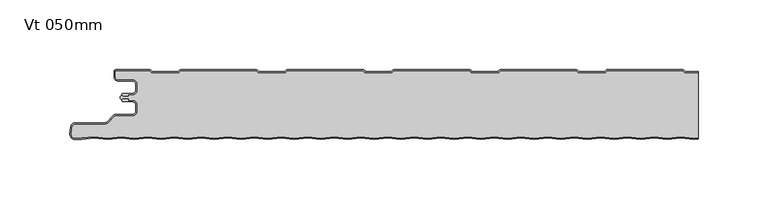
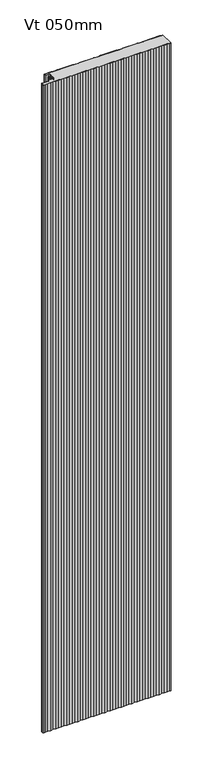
"""IFC4 building model written with IfcOpenShell, lengths in millimetres: plate geometry, KIP-MEX-KSS-1067-R19-CP-Vt-MR_SL : Vt 050mm."""

from ifc_helpers import new_model, si_unit, point, frame, frame_2d, origin, origin_with_axes, place, context, project, spatial, polyline, circle_curve, trimmed, segment, composite_curve, outline, extrude, source, transform, mapped, element, save
from ifc_brep_helpers import plane_surface, cylinder_surface, revolved_surface, advanced_brep


def vt_050mm_2a4f2189(model_context):
    return source(origin(), model_context, "Body", "SolidModel", [
        extrude(outline(composite_curve([segment(polyline([(-205.4683, -21.670875), (-206.4999998, -20.6391751), (-206.4999998, -19.0328392), (-205.4686882, -18.0015275)]), True, "CONTINUOUS"), segment(trimmed(circle_curve(frame_2d((-204.468691, -18.0015216)), 0.9999972), [point((-205.4686882, -18.0015275))], [point((-204.468691, -19.0015188))], True, "CARTESIAN"), True, "CONTINUOUS"), segment(polyline([(-204.468691, -19.0015188), (-200.4684873, -19.0015188), (-200.4684873, -18.0015243), (-197.7762775, -18.0015243)]), True, "CONTINUOUS"), segment(trimmed(circle_curve(frame_2d((-197.7762775, -14.7015286)), 3.2999957), [point((-197.7762775, -18.0015243))], [point((-194.4762818, -14.7015286))], True, "CARTESIAN"), True, "CONTINUOUS"), segment(polyline([(-194.4762818, -14.7015286), (-194.4762818, -10.3015374)]), True, "CONTINUOUS"), segment(trimmed(circle_curve(frame_2d((-197.7762777, -10.3015374)), 3.2999959), [point((-194.4762818, -10.3015374))], [point((-197.7762777, -7.0015415))], True, "CARTESIAN"), True, "CONTINUOUS"), segment(polyline([(-197.7762777, -7.0015415), (-208.1962562, -7.0015415)]), True, "CONTINUOUS"), segment(trimmed(circle_curve(frame_2d((-208.1962562, -5.2315473)), 1.7699942), [point((-208.1962562, -7.0015415))], [point((-209.9662504, -5.2315473))], False, "CARTESIAN"), True, "CONTINUOUS"), segment(polyline([(-209.9662504, -5.2315473), (-209.9662504, -1.0), (-185.4659738, -1.0), (-184.0803312, -2.2002391), (-164.7051649, -2.2002391), (-163.3195319, -1.0000084), (-109.2661165, -1.0000084), (-107.8804836, -2.2002391), (-88.5053173, -2.2002391), (-87.1196843, -1.0000084), (-33.0662689, -1.0000084), (-31.680636, -2.2002391), (-12.3054697, -2.2002391), (-10.9198367, -1.0000084), (43.1335787, -1.0000084), (44.5192116, -2.2002391), (63.8943779, -2.2002391), (65.2800109, -1.0000084), (119.3334263, -1.0000084), (120.7190592, -2.2002391), (140.0942255, -2.2002391), (141.4798585, -1.0000084), (195.5332739, -1.0000084), (196.9189068, -2.2002391), (206.4999998, -2.2002391), (206.4999998, -48.6994464), (203.6548827, -49.015715), (194.1299018, -47.9568999), (184.6049208, -49.015715), (175.0799399, -47.9568999), (165.5549589, -49.015715), (156.029978, -47.9568999), (146.504997, -49.015715), (136.9800161, -47.9568999), (127.4550351, -49.015715), (117.9300542, -47.9568999), (108.4050732, -49.015715), (98.8800923, -47.9568999), (89.3551113, -49.015715), (79.8301304, -47.9568999), (70.3051494, -49.015715), (60.7801685, -47.9568999), (51.2551875, -49.015715), (41.7302066, -47.9568999), (32.2052256, -49.015715), (22.6802447, -47.9568999), (13.1552637, -49.015715), (3.6302828, -47.9568999), (-5.8946982, -49.015715), (-15.4196791, -47.9568999), (-24.9446601, -49.015715), (-34.469641, -47.9568999), (-43.994622, -49.015715), (-53.5196029, -47.9568999), (-63.0445839, -49.015715), (-72.5695648, -47.9568999), (-82.0945458, -49.015715), (-91.6195267, -47.9568999), (-101.1445077, -49.015715), (-110.6694886, -47.9568999), (-120.1944696, -49.015715), (-129.7194505, -47.9568999), (-139.2444315, -49.015715), (-148.7694124, -47.9568999), (-158.2943934, -49.015715), (-167.8193743, -47.9568999), (-177.3443553, -49.015715), (-186.8693362, -47.9568999), (-196.3943172, -49.015715), (-205.9192981, -47.9568999), (-215.4442791, -49.015715), (-224.96926, -47.9568999), (-234.3001738, -48.9941422), (-238.9501935, -48.9941422)]), True, "CONTINUOUS"), segment(trimmed(circle_curve(frame_2d((-238.9521993, -46.4241501)), 2.5699929), [point((-238.9501935, -48.9941422))], [point((-241.5124126, -46.2001604))], False, "CARTESIAN"), True, "CONTINUOUS"), segment(polyline([(-241.5124126, -46.2001604), (-241.0765683, -41.2184377)]), True, "CONTINUOUS"), segment(trimmed(circle_curve(frame_2d((-238.4198391, -41.6998415)), 2.6999926), [point((-241.0765683, -41.2184377))], [point((-238.4198391, -38.9998489))], False, "CARTESIAN"), True, "CONTINUOUS"), segment(polyline([(-238.4198391, -38.9998489), (-217.2773995, -38.9998489)]), True, "CONTINUOUS"), segment(trimmed(circle_curve(frame_2d((-217.2773995, -36.6998515)), 2.2999974), [point((-217.2773995, -38.9998489))], [point((-215.6510558, -38.3261953))], True, "CARTESIAN"), True, "CONTINUOUS"), segment(polyline([(-215.6510558, -38.3261953), (-210.8226383, -33.4977778)]), True, "CONTINUOUS"), segment(trimmed(circle_curve(frame_2d((-209.6205606, -34.6998555)), 1.6999946), [point((-210.8226383, -33.4977778))], [point((-209.6205606, -32.9998609))], False, "CARTESIAN"), True, "CONTINUOUS"), segment(polyline([(-209.6205606, -32.9998609), (-197.8096715, -32.9998609)]), True, "CONTINUOUS"), segment(trimmed(circle_curve(frame_2d((-197.8096715, -29.6498656)), 3.3499953), [point((-197.8096715, -32.9998609))], [point((-194.4596762, -29.6498656))], True, "CARTESIAN"), True, "CONTINUOUS"), segment(polyline([(-194.4596762, -29.6498656), (-194.4596762, -25.2498744)]), True, "CONTINUOUS"), segment(trimmed(circle_curve(frame_2d((-197.8096715, -25.2498744)), 3.3499953), [point((-194.4596762, -25.2498744))], [point((-197.8096715, -21.8998791))], True, "CARTESIAN"), True, "CONTINUOUS"), segment(polyline([(-197.8096715, -21.8998791), (-200.5087826, -21.8998791), (-200.5087826, -20.5014003), (-204.267176, -20.5014003)]), True, "CONTINUOUS"), segment(trimmed(circle_curve(frame_2d((-204.2686906, -21.7013969)), 1.1999976), [point((-204.267176, -20.5014003))], [point((-205.4683, -21.670875))], True, "CARTESIAN"), True, "CONTINUOUS")], self_intersect=False)), origin_with_axes(), (0.0, 0.0, 1.0), 2400.0),
        advanced_brep(
        [(-204.468691, -17.0015159, 2400.0), (-205.4686883, -18.0015191, 2400.0), (-204.468691, -19.0015105, 2400.0), (-200.4684874, -19.0015105, 2400.0), (-200.4684874, -18.0015159, 2400.0), (-197.7762776, -18.0015159, 2400.0), (-194.4762819, -14.7015202, 2400.0), (-194.4762819, -10.301529, 2400.0), (-197.7762774, -7.0015335, 2400.0), (-208.1962563, -7.0015335, 2400.0), (-209.9662505, -5.2315393, 2400.0), (-209.9662505, -0.9999916, 2400.0), (-185.4659738, -0.9999916, 2400.0), (-184.0803312, -2.2002307, 2400.0), (-164.7051649, -2.2002307, 2400.0), (-163.319532, -1.0, 2400.0), (-109.2661166, -1.0, 2400.0), (-107.8804836, -2.2002307, 2400.0), (-88.5053173, -2.2002307, 2400.0), (-87.1196844, -1.0, 2400.0), (-33.066269, -1.0, 2400.0), (-31.680636, -2.2002307, 2400.0), (-12.3054697, -2.2002307, 2400.0), (-10.9198368, -1.0, 2400.0), (43.1335786, -1.0, 2400.0), (44.5192116, -2.2002307, 2400.0), (63.8943779, -2.2002307, 2400.0), (65.2800108, -1.0, 2400.0), (119.3334262, -1.0, 2400.0), (120.7190592, -2.2002307, 2400.0), (140.0942255, -2.2002307, 2400.0), (141.4798584, -1.0, 2400.0), (195.5332738, -1.0, 2400.0), (196.9189068, -2.2002307, 2400.0), (206.4999998, -2.2002307, 2400.0), (206.4999998, -1.2002307, 2400.0), (197.2917872, -1.2002307, 2400.0), (196.3007396, -0.3417885, 2400.0), (195.3841227, 0.0, 2400.0), (141.6290096, 0.0, 2400.0), (140.7123927, -0.3417885, 2400.0), (139.7213451, -1.2002307, 2400.0), (121.0919396, -1.2002307, 2400.0), (120.100892, -0.3417885, 2400.0), (119.1842751, 0.0, 2400.0), (65.429162, 0.0, 2400.0), (64.5125451, -0.3417885, 2400.0), (63.5214975, -1.2002307, 2400.0), (44.892092, -1.2002307, 2400.0), (43.9010444, -0.3417885, 2400.0), (42.9844275, 0.0, 2400.0), (-10.7706856, 0.0, 2400.0), (-11.6873025, -0.3417885, 2400.0), (-12.6783501, -1.2002307, 2400.0), (-31.3077556, -1.2002307, 2400.0), (-32.2988032, -0.3417885, 2400.0), (-33.2154201, 0.0, 2400.0), (-86.9705332, 0.0, 2400.0), (-87.8871501, -0.3417885, 2400.0), (-88.8781977, -1.2002307, 2400.0), (-107.5076032, -1.2002307, 2400.0), (-108.4986508, -0.3417885, 2400.0), (-109.4152677, 0.0, 2400.0), (-163.1703808, 0.0, 2400.0), (-164.0869977, -0.3417885, 2400.0), (-165.0780453, -1.2002307, 2400.0), (-183.7074508, -1.2002307, 2400.0), (-184.6984984, -0.3417885, 2400.0), (-185.6152067, 0.0, 2400.0), (-209.5662543, 8.4e-06, 2400.0), (-210.9662505, -1.3999878, 2400.0), (-210.9662505, -5.2315393, 2400.0), (-208.1962563, -8.0015335, 2400.0), (-197.7762774, -8.0015335, 2400.0), (-195.4762819, -10.301529, 2400.0), (-195.4762819, -14.7015202, 2400.0), (-197.7762776, -17.0015159, 2400.0), (-204.468691, -17.0015159, 0.0), (-197.7762776, -17.0015159, 0.0), (-195.4762819, -14.7015202, 0.0), (-195.4762819, -10.301529, 0.0), (-197.7762774, -8.0015335, 0.0), (-208.1962563, -8.0015335, 0.0), (-210.9662505, -5.2315393, 0.0), (-210.9662505, -1.3999878, 0.0), (-209.5662543, 8.4e-06, 0.0), (-185.6151153, 8.4e-06, 0.0), (-184.6984984, -0.3417885, 0.0), (-183.7074508, -1.2002307, 0.0), (-165.0780453, -1.2002307, 0.0), (-164.0869977, -0.3417885, 0.0), (-163.1703808, 0.0, 0.0), (-109.4152677, 0.0, 0.0), (-108.4986508, -0.3417885, 0.0), (-107.5076032, -1.2002307, 0.0), (-88.8781977, -1.2002307, 0.0), (-87.8871501, -0.3417885, 0.0), (-86.9705332, 0.0, 0.0), (-33.2154201, 0.0, 0.0), (-32.2988032, -0.3417885, 0.0), (-31.3077556, -1.2002307, 0.0), (-12.6783501, -1.2002307, 0.0), (-11.6873025, -0.3417885, 0.0), (-10.7706856, 0.0, 0.0), (42.9844275, 0.0, 0.0), (43.9010444, -0.3417885, 0.0), (44.892092, -1.2002307, 0.0), (63.5214975, -1.2002307, 0.0), (64.5125451, -0.3417885, 0.0), (65.429162, 0.0, 0.0), (119.1842751, 0.0, 0.0), (120.100892, -0.3417885, 0.0), (121.0919396, -1.2002307, 0.0), (139.7213451, -1.2002307, 0.0), (140.7123927, -0.3417885, 0.0), (141.6290096, 0.0, 0.0), (195.3841227, 0.0, 0.0), (196.3007396, -0.3417885, 0.0), (197.2917872, -1.2002307, 0.0), (206.4999998, -1.2002307, 0.0), (206.4999998, -2.2002307, 0.0), (196.9189068, -2.2002307, 0.0), (195.5332738, -1.0, 0.0), (141.4798584, -1.0, 0.0), (140.0942255, -2.2002307, 0.0), (120.7190592, -2.2002307, 0.0), (119.3334262, -1.0, 0.0), (65.2800108, -1.0, 0.0), (63.8943779, -2.2002307, 0.0), (44.5192116, -2.2002307, 0.0), (43.1335786, -1.0, 0.0), (-10.9198368, -1.0, 0.0), (-12.3054697, -2.2002307, 0.0), (-31.680636, -2.2002307, 0.0), (-33.066269, -1.0, 0.0), (-87.1196844, -1.0, 0.0), (-88.5053173, -2.2002307, 0.0), (-107.8804836, -2.2002307, 0.0), (-109.2661166, -1.0, 0.0), (-163.319532, -1.0, 0.0), (-164.7051649, -2.2002307, 0.0), (-184.0803312, -2.2002307, 0.0), (-185.4659738, -0.9999916, 0.0), (-209.9662505, -0.9999916, 0.0), (-209.9662505, -5.2315393, 0.0), (-208.1962563, -7.0015335, 0.0), (-197.7762774, -7.0015335, 0.0), (-194.4762819, -10.301529, 0.0), (-194.4762819, -14.7015202, 0.0), (-197.7762776, -18.0015159, 0.0), (-200.4684874, -18.0015159, 0.0), (-200.4684874, -19.0015105, 0.0), (-204.468691, -19.0015105, 0.0), (-205.4686882, -18.0015192, 0.0)],
        [
            (0, 1, circle_curve(frame((-204.468691, -18.0015132, 2400.0), z_axis=(0.0, 0.0, 1.0), x_axis=(1.0, 0.0, 0.0)), 0.9999973)),
            (1, 2, circle_curve(frame((-204.468691, -18.0015133, 2400.0), z_axis=(0.0, 0.0, 1.0), x_axis=(1.0, 0.0, 0.0)), 0.9999972)),
            (2, 3),
            (3, 4),
            (4, 5),
            (5, 6, circle_curve(frame((-197.7762776, -14.7015202, 2400.0), z_axis=(0.0, 0.0, 1.0), x_axis=(1.0, 0.0, 0.0)), 3.2999957)),
            (6, 7),
            (7, 8, circle_curve(frame((-197.7762774, -10.301529, 2400.0), z_axis=(0.0, 0.0, 1.0), x_axis=(1.0, 0.0, 0.0)), 3.2999955)),
            (8, 9),
            (9, 10, circle_curve(frame((-208.1962563, -5.2315393, 2400.0), z_axis=(0.0, 0.0, -1.0), x_axis=(1.0, 0.0, 0.0)), 1.7699942)),
            (10, 11),
            (11, 12),
            (12, 13),
            (13, 14),
            (14, 15),
            (15, 16),
            (16, 17),
            (17, 18),
            (18, 19),
            (19, 20),
            (20, 21),
            (21, 22),
            (22, 23),
            (23, 24),
            (24, 25),
            (25, 26),
            (26, 27),
            (27, 28),
            (28, 29),
            (29, 30),
            (30, 31),
            (31, 32),
            (32, 33),
            (33, 34),
            (34, 35),
            (35, 36),
            (36, 37),
            (37, 38, circle_curve(frame((195.3841227, -1.3999972, 2400.0), z_axis=(0.0, 0.0, 1.0), x_axis=(1.0, 0.0, 0.0)), 1.3999972)),
            (38, 39),
            (39, 40, circle_curve(frame((141.6290096, -1.3999972, 2400.0), z_axis=(0.0, 0.0, 1.0), x_axis=(1.0, 0.0, 0.0)), 1.3999972)),
            (40, 41),
            (41, 42),
            (42, 43),
            (43, 44, circle_curve(frame((119.1842751, -1.3999972, 2400.0), z_axis=(0.0, 0.0, 1.0), x_axis=(1.0, 0.0, 0.0)), 1.3999972)),
            (44, 45),
            (45, 46, circle_curve(frame((65.429162, -1.3999972, 2400.0), z_axis=(0.0, 0.0, 1.0), x_axis=(1.0, 0.0, 0.0)), 1.3999972)),
            (46, 47),
            (47, 48),
            (48, 49),
            (49, 50, circle_curve(frame((42.9844275, -1.3999972, 2400.0), z_axis=(0.0, 0.0, 1.0), x_axis=(1.0, 0.0, 0.0)), 1.3999972)),
            (50, 51),
            (51, 52, circle_curve(frame((-10.7706856, -1.3999972, 2400.0), z_axis=(0.0, 0.0, 1.0), x_axis=(1.0, 0.0, 0.0)), 1.3999972)),
            (52, 53),
            (53, 54),
            (54, 55),
            (55, 56, circle_curve(frame((-33.2154201, -1.3999972, 2400.0), z_axis=(0.0, 0.0, 1.0), x_axis=(1.0, 0.0, 0.0)), 1.3999972)),
            (56, 57),
            (57, 58, circle_curve(frame((-86.9705332, -1.3999972, 2400.0), z_axis=(0.0, 0.0, 1.0), x_axis=(1.0, 0.0, 0.0)), 1.3999972)),
            (58, 59),
            (59, 60),
            (60, 61),
            (61, 62, circle_curve(frame((-109.4152677, -1.3999972, 2400.0), z_axis=(0.0, 0.0, 1.0), x_axis=(1.0, 0.0, 0.0)), 1.3999972)),
            (62, 63),
            (63, 64, circle_curve(frame((-163.1703808, -1.3999972, 2400.0), z_axis=(0.0, 0.0, 1.0), x_axis=(1.0, 0.0, 0.0)), 1.3999972)),
            (64, 65),
            (65, 66),
            (66, 67),
            (67, 68, circle_curve(frame((-185.6151153, -1.3999972, 2400.0), z_axis=(0.0, 0.0, 1.0), x_axis=(1.0, 0.0, 0.0)), 1.3999972)),
            (68, 69),
            (69, 70, circle_curve(frame((-209.5662543, -1.3999878, 2400.0), z_axis=(0.0, 0.0, 1.0), x_axis=(1.0, 0.0, 0.0)), 1.3999962)),
            (70, 71),
            (71, 72, circle_curve(frame((-208.1962563, -5.2315393, 2400.0), z_axis=(0.0, 0.0, 1.0), x_axis=(1.0, 0.0, 0.0)), 2.7699942)),
            (72, 73),
            (73, 74, circle_curve(frame((-197.7762774, -10.301529, 2400.0), z_axis=(0.0, 0.0, -1.0), x_axis=(1.0, 0.0, 0.0)), 2.2999955)),
            (74, 75),
            (75, 76, circle_curve(frame((-197.7762776, -14.7015202, 2400.0), z_axis=(0.0, 0.0, -1.0), x_axis=(1.0, 0.0, 0.0)), 2.2999957)),
            (76, 0),
            (77, 78),
            (78, 79, circle_curve(frame((-197.7762776, -14.7015202, 0.0), z_axis=(0.0, 0.0, 1.0), x_axis=(1.0, 0.0, 0.0)), 2.2999957)),
            (79, 80),
            (80, 81, circle_curve(frame((-197.7762774, -10.301529, 0.0), z_axis=(0.0, 0.0, 1.0), x_axis=(1.0, 0.0, 0.0)), 2.2999955)),
            (81, 82),
            (82, 83, circle_curve(frame((-208.1962563, -5.2315393, 0.0), z_axis=(0.0, 0.0, -1.0), x_axis=(1.0, 0.0, 0.0)), 2.7699942)),
            (83, 84),
            (84, 85, circle_curve(frame((-209.5662543, -1.3999878, 0.0), z_axis=(0.0, 0.0, -1.0), x_axis=(1.0, 0.0, 0.0)), 1.3999962)),
            (85, 86),
            (86, 87, circle_curve(frame((-185.6151153, -1.3999972, 0.0), z_axis=(0.0, 0.0, -1.0), x_axis=(1.0, 0.0, 0.0)), 1.3999972)),
            (87, 88),
            (88, 89),
            (89, 90),
            (90, 91, circle_curve(frame((-163.1703808, -1.3999972, 0.0), z_axis=(0.0, 0.0, -1.0), x_axis=(1.0, 0.0, 0.0)), 1.3999972)),
            (91, 92),
            (92, 93, circle_curve(frame((-109.4152677, -1.3999972, 0.0), z_axis=(0.0, 0.0, -1.0), x_axis=(1.0, 0.0, 0.0)), 1.3999972)),
            (93, 94),
            (94, 95),
            (95, 96),
            (96, 97, circle_curve(frame((-86.9705332, -1.3999972, 0.0), z_axis=(0.0, 0.0, -1.0), x_axis=(1.0, 0.0, 0.0)), 1.3999972)),
            (97, 98),
            (98, 99, circle_curve(frame((-33.2154201, -1.3999972, 0.0), z_axis=(0.0, 0.0, -1.0), x_axis=(1.0, 0.0, 0.0)), 1.3999972)),
            (99, 100),
            (100, 101),
            (101, 102),
            (102, 103, circle_curve(frame((-10.7706856, -1.3999972, 0.0), z_axis=(0.0, 0.0, -1.0), x_axis=(1.0, 0.0, 0.0)), 1.3999972)),
            (103, 104),
            (104, 105, circle_curve(frame((42.9844275, -1.3999972, 0.0), z_axis=(0.0, 0.0, -1.0), x_axis=(1.0, 0.0, 0.0)), 1.3999972)),
            (105, 106),
            (106, 107),
            (107, 108),
            (108, 109, circle_curve(frame((65.429162, -1.3999972, 0.0), z_axis=(0.0, 0.0, -1.0), x_axis=(1.0, 0.0, 0.0)), 1.3999972)),
            (109, 110),
            (110, 111, circle_curve(frame((119.1842751, -1.3999972, 0.0), z_axis=(0.0, 0.0, -1.0), x_axis=(1.0, 0.0, 0.0)), 1.3999972)),
            (111, 112),
            (112, 113),
            (113, 114),
            (114, 115, circle_curve(frame((141.6290096, -1.3999972, 0.0), z_axis=(0.0, 0.0, -1.0), x_axis=(1.0, 0.0, 0.0)), 1.3999972)),
            (115, 116),
            (116, 117, circle_curve(frame((195.3841227, -1.3999972, 0.0), z_axis=(0.0, 0.0, -1.0), x_axis=(1.0, 0.0, 0.0)), 1.3999972)),
            (117, 118),
            (118, 119),
            (119, 120),
            (120, 121),
            (121, 122),
            (122, 123),
            (123, 124),
            (124, 125),
            (125, 126),
            (126, 127),
            (127, 128),
            (128, 129),
            (129, 130),
            (130, 131),
            (131, 132),
            (132, 133),
            (133, 134),
            (134, 135),
            (135, 136),
            (136, 137),
            (137, 138),
            (138, 139),
            (139, 140),
            (140, 141),
            (141, 142),
            (142, 143),
            (143, 144),
            (144, 145, circle_curve(frame((-208.1962563, -5.2315393, 0.0), z_axis=(0.0, 0.0, 1.0), x_axis=(1.0, 0.0, 0.0)), 1.7699942)),
            (145, 146),
            (146, 147, circle_curve(frame((-197.7762774, -10.301529, 0.0), z_axis=(0.0, 0.0, -1.0), x_axis=(1.0, 0.0, 0.0)), 3.2999955)),
            (147, 148),
            (148, 149, circle_curve(frame((-197.7762776, -14.7015202, 0.0), z_axis=(0.0, 0.0, -1.0), x_axis=(1.0, 0.0, 0.0)), 3.2999957)),
            (149, 150),
            (150, 151),
            (151, 152),
            (152, 153, circle_curve(frame((-204.468691, -18.0015133, 0.0), z_axis=(0.0, 0.0, -1.0), x_axis=(1.0, 0.0, 0.0)), 0.9999972)),
            (153, 77, circle_curve(frame((-204.468691, -18.0015132, 0.0), z_axis=(0.0, 0.0, -1.0), x_axis=(1.0, 0.0, 0.0)), 0.9999973)),
            (76, 78),
            (77, 0),
            (75, 79),
            (74, 80),
            (73, 81),
            (72, 82),
            (71, 83),
            (70, 84),
            (69, 85),
            (68, 86),
            (67, 87),
            (66, 88),
            (65, 89),
            (64, 90),
            (63, 91),
            (62, 92),
            (61, 93),
            (60, 94),
            (59, 95),
            (58, 96),
            (57, 97),
            (56, 98),
            (55, 99),
            (54, 100),
            (53, 101),
            (52, 102),
            (51, 103),
            (50, 104),
            (49, 105),
            (48, 106),
            (47, 107),
            (46, 108),
            (45, 109),
            (44, 110),
            (43, 111),
            (42, 112),
            (41, 113),
            (40, 114),
            (39, 115),
            (38, 116),
            (37, 117),
            (36, 118),
            (35, 119),
            (120, 34),
            (33, 121),
            (32, 122),
            (31, 123),
            (30, 124),
            (29, 125),
            (28, 126),
            (27, 127),
            (26, 128),
            (25, 129),
            (24, 130),
            (23, 131),
            (22, 132),
            (21, 133),
            (20, 134),
            (19, 135),
            (18, 136),
            (17, 137),
            (16, 138),
            (15, 139),
            (14, 140),
            (13, 141),
            (12, 142),
            (11, 143),
            (10, 144),
            (9, 145),
            (8, 146),
            (7, 147),
            (6, 148),
            (5, 149),
            (4, 150),
            (3, 151),
            (2, 152),
            (1, 153),
        ],
        [
            plane_surface(frame((326.9000002, 0.0, 2400.0), z_axis=(0.0, 0.0, 1.0), x_axis=(0.0, 1.0, 0.0))),
            plane_surface(frame((326.9000002, 0.0, 0.0), z_axis=(0.0, 0.0, -1.0), x_axis=(0.0, 1.0, 0.0))),
            plane_surface(frame((-204.468691, -17.0015159, 2400.0), z_axis=(0.0, 1.0, 0.0), x_axis=(0.0, 0.0, -1.0))),
            revolved_surface(polyline([(-195.47628189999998, -14.7015202, 0.0), (-195.47628189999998, -14.7015202, 2400.0)]), (-197.7762776, -14.7015202, 2400.0), (0.0, 0.0, -1.0)),
            plane_surface(frame((-195.4762819, -14.7015202, 2400.0), z_axis=(-1.0, 0.0, 0.0), x_axis=(0.0, 0.0, -1.0))),
            revolved_surface(polyline([(-195.4762819, -10.301529, 0.0), (-195.4762819, -10.301529, 2400.0)]), (-197.7762774, -10.301529, 2400.0), (0.0, 0.0, -1.0)),
            plane_surface(frame((-197.7762774, -8.0015335, 2400.0), z_axis=(0.0, -1.0, 0.0), x_axis=(0.0, 0.0, -1.0))),
            cylinder_surface(frame((-208.1962563, -5.2315393, 2400.0), z_axis=(0.0, 0.0, 1.0), x_axis=(1.0, 0.0, 0.0)), 2.7699942),
            plane_surface(frame((-210.9662505, -5.2315393, 2400.0), z_axis=(-1.0, 0.0, 0.0), x_axis=(0.0, 0.0, -1.0))),
            cylinder_surface(frame((-209.5662543, -1.3999878, 2400.0), z_axis=(0.0, 0.0, 1.0), x_axis=(1.0, 0.0, 0.0)), 1.3999962),
            plane_surface(frame((-209.5662543, 8.4e-06, 2400.0), z_axis=(0.0, 1.0, 0.0), x_axis=(0.0, 0.0, -1.0))),
            cylinder_surface(frame((-185.6151153, -1.3999972, 2400.0), z_axis=(0.0, 0.0, 1.0), x_axis=(1.0, 0.0, 0.0)), 1.3999972),
            plane_surface(frame((-184.6984984, -0.3417885, 2400.0), z_axis=(0.6547276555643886, 0.755864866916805, 0.0), x_axis=(0.0, 0.0, -1.0))),
            plane_surface(frame((-174.3927481, -1.2002307, 2400.0), z_axis=(0.0, 1.0, 0.0), x_axis=(0.0, 0.0, -1.0))),
            plane_surface(frame((-165.0780453, -1.2002307, 2400.0), z_axis=(-0.6547276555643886, 0.755864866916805, 0.0), x_axis=(0.0, 0.0, -1.0))),
            cylinder_surface(frame((-163.1703808, -1.3999972, 2400.0), z_axis=(0.0, 0.0, 1.0), x_axis=(1.0, 0.0, 0.0)), 1.3999972),
            plane_surface(frame((-163.1703808, 0.0, 2400.0), z_axis=(0.0, 1.0, 0.0), x_axis=(0.0, 0.0, -1.0))),
            cylinder_surface(frame((-109.4152677, -1.3999972, 2400.0), z_axis=(0.0, 0.0, 1.0), x_axis=(1.0, 0.0, 0.0)), 1.3999972),
            plane_surface(frame((-108.4986508, -0.3417885, 2400.0), z_axis=(0.6547276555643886, 0.755864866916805, 0.0), x_axis=(0.0, 0.0, -1.0))),
            plane_surface(frame((-98.1929005, -1.2002307, 2400.0), z_axis=(0.0, 1.0, 0.0), x_axis=(0.0, 0.0, -1.0))),
            plane_surface(frame((-88.8781977, -1.2002307, 2400.0), z_axis=(-0.6547276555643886, 0.755864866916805, 0.0), x_axis=(0.0, 0.0, -1.0))),
            cylinder_surface(frame((-86.9705332, -1.3999972, 2400.0), z_axis=(0.0, 0.0, 1.0), x_axis=(1.0, 0.0, 0.0)), 1.3999972),
            plane_surface(frame((-86.9705332, 0.0, 2400.0), z_axis=(0.0, 1.0, 0.0), x_axis=(0.0, 0.0, -1.0))),
            cylinder_surface(frame((-33.2154201, -1.3999972, 2400.0), z_axis=(0.0, 0.0, 1.0), x_axis=(1.0, 0.0, 0.0)), 1.3999972),
            plane_surface(frame((-32.2988032, -0.3417885, 2400.0), z_axis=(0.6547276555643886, 0.755864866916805, 0.0), x_axis=(0.0, 0.0, -1.0))),
            plane_surface(frame((-21.9930529, -1.2002307, 2400.0), z_axis=(0.0, 1.0, 0.0), x_axis=(0.0, 0.0, -1.0))),
            plane_surface(frame((-12.6783501, -1.2002307, 2400.0), z_axis=(-0.6547276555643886, 0.755864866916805, 0.0), x_axis=(0.0, 0.0, -1.0))),
            cylinder_surface(frame((-10.7706856, -1.3999972, 2400.0), z_axis=(0.0, 0.0, 1.0), x_axis=(1.0, 0.0, 0.0)), 1.3999972),
            plane_surface(frame((-10.7706856, 0.0, 2400.0), z_axis=(0.0, 1.0, 0.0), x_axis=(0.0, 0.0, -1.0))),
            cylinder_surface(frame((42.9844275, -1.3999972, 2400.0), z_axis=(0.0, 0.0, 1.0), x_axis=(1.0, 0.0, 0.0)), 1.3999972),
            plane_surface(frame((43.9010444, -0.3417885, 2400.0), z_axis=(0.6547276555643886, 0.755864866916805, 0.0), x_axis=(0.0, 0.0, -1.0))),
            plane_surface(frame((54.2067947, -1.2002307, 2400.0), z_axis=(0.0, 1.0, 0.0), x_axis=(0.0, 0.0, -1.0))),
            plane_surface(frame((63.5214975, -1.2002307, 2400.0), z_axis=(-0.6547276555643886, 0.755864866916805, 0.0), x_axis=(0.0, 0.0, -1.0))),
            cylinder_surface(frame((65.429162, -1.3999972, 2400.0), z_axis=(0.0, 0.0, 1.0), x_axis=(1.0, 0.0, 0.0)), 1.3999972),
            plane_surface(frame((65.429162, 0.0, 2400.0), z_axis=(0.0, 1.0, 0.0), x_axis=(0.0, 0.0, -1.0))),
            cylinder_surface(frame((119.1842751, -1.3999972, 2400.0), z_axis=(0.0, 0.0, 1.0), x_axis=(1.0, 0.0, 0.0)), 1.3999972),
            plane_surface(frame((120.100892, -0.3417885, 2400.0), z_axis=(0.6547276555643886, 0.755864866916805, 0.0), x_axis=(0.0, 0.0, -1.0))),
            plane_surface(frame((130.4066423, -1.2002307, 2400.0), z_axis=(0.0, 1.0, 0.0), x_axis=(0.0, 0.0, -1.0))),
            plane_surface(frame((139.7213451, -1.2002307, 2400.0), z_axis=(-0.6547276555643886, 0.755864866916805, 0.0), x_axis=(0.0, 0.0, -1.0))),
            cylinder_surface(frame((141.6290096, -1.3999972, 2400.0), z_axis=(0.0, 0.0, 1.0), x_axis=(1.0, 0.0, 0.0)), 1.3999972),
            plane_surface(frame((141.6290096, 0.0, 2400.0), z_axis=(0.0, 1.0, 0.0), x_axis=(0.0, 0.0, -1.0))),
            cylinder_surface(frame((195.3841227, -1.3999972, 2400.0), z_axis=(0.0, 0.0, 1.0), x_axis=(1.0, 0.0, 0.0)), 1.3999972),
            plane_surface(frame((196.3007396, -0.3417885, 2400.0), z_axis=(0.6547276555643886, 0.755864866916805, 0.0), x_axis=(0.0, 0.0, -1.0))),
            plane_surface(frame((206.6064899, -1.2002307, 2400.0), z_axis=(0.0, 1.0, 0.0), x_axis=(0.0, 0.0, -1.0))),
            plane_surface(frame((216.2940731, -2.2002307, 2400.0), z_axis=(0.0, -1.0, 0.0), x_axis=(0.0, 0.0, -1.0))),
            plane_surface(frame((196.9189068, -2.2002307, 2400.0), z_axis=(-0.6547276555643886, -0.755864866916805, 0.0), x_axis=(0.0, 0.0, -1.0))),
            plane_surface(frame((195.5332738, -1.0, 2400.0), z_axis=(0.0, -1.0, 0.0), x_axis=(0.0, 0.0, -1.0))),
            plane_surface(frame((141.4798584, -1.0, 2400.0), z_axis=(0.6547276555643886, -0.755864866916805, 0.0), x_axis=(0.0, 0.0, -1.0))),
            plane_surface(frame((140.0942255, -2.2002307, 2400.0), z_axis=(0.0, -1.0, 0.0), x_axis=(0.0, 0.0, -1.0))),
            plane_surface(frame((120.7190592, -2.2002307, 2400.0), z_axis=(-0.6547276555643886, -0.755864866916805, 0.0), x_axis=(0.0, 0.0, -1.0))),
            plane_surface(frame((119.3334262, -1.0, 2400.0), z_axis=(0.0, -1.0, 0.0), x_axis=(0.0, 0.0, -1.0))),
            plane_surface(frame((65.2800108, -1.0, 2400.0), z_axis=(0.6547276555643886, -0.755864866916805, 0.0), x_axis=(0.0, 0.0, -1.0))),
            plane_surface(frame((63.8943779, -2.2002307, 2400.0), z_axis=(0.0, -1.0, 0.0), x_axis=(0.0, 0.0, -1.0))),
            plane_surface(frame((44.5192116, -2.2002307, 2400.0), z_axis=(-0.6547276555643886, -0.755864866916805, 0.0), x_axis=(0.0, 0.0, -1.0))),
            plane_surface(frame((43.1335786, -1.0, 2400.0), z_axis=(0.0, -1.0, 0.0), x_axis=(0.0, 0.0, -1.0))),
            plane_surface(frame((-10.9198368, -1.0, 2400.0), z_axis=(0.6547276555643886, -0.755864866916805, 0.0), x_axis=(0.0, 0.0, -1.0))),
            plane_surface(frame((-12.3054697, -2.2002307, 2400.0), z_axis=(0.0, -1.0, 0.0), x_axis=(0.0, 0.0, -1.0))),
            plane_surface(frame((-31.680636, -2.2002307, 2400.0), z_axis=(-0.6547276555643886, -0.755864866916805, 0.0), x_axis=(0.0, 0.0, -1.0))),
            plane_surface(frame((-33.066269, -1.0, 2400.0), z_axis=(0.0, -1.0, 0.0), x_axis=(0.0, 0.0, -1.0))),
            plane_surface(frame((-87.1196844, -1.0, 2400.0), z_axis=(0.6547276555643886, -0.755864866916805, 0.0), x_axis=(0.0, 0.0, -1.0))),
            plane_surface(frame((-88.5053173, -2.2002307, 2400.0), z_axis=(0.0, -1.0, 0.0), x_axis=(0.0, 0.0, -1.0))),
            plane_surface(frame((-107.8804836, -2.2002307, 2400.0), z_axis=(-0.6547276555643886, -0.755864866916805, 0.0), x_axis=(0.0, 0.0, -1.0))),
            plane_surface(frame((-109.2661166, -1.0, 2400.0), z_axis=(0.0, -1.0, 0.0), x_axis=(0.0, 0.0, -1.0))),
            plane_surface(frame((-163.319532, -1.0, 2400.0), z_axis=(0.6547276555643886, -0.755864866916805, 0.0), x_axis=(0.0, 0.0, -1.0))),
            plane_surface(frame((-164.7051649, -2.2002307, 2400.0), z_axis=(0.0, -1.0, 0.0), x_axis=(0.0, 0.0, -1.0))),
            plane_surface(frame((-184.0803312, -2.2002307, 2400.0), z_axis=(-0.6547276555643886, -0.755864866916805, 0.0), x_axis=(0.0, 0.0, -1.0))),
            plane_surface(frame((-185.4659738, -0.9999916, 2400.0), z_axis=(0.0, -1.0, 0.0), x_axis=(0.0, 0.0, -1.0))),
            plane_surface(frame((-209.9662505, -0.9999916, 2400.0), z_axis=(1.0, 0.0, 0.0), x_axis=(0.0, 0.0, -1.0))),
            revolved_surface(polyline([(-206.42626209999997, -5.2315393, 0.0), (-206.42626209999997, -5.2315393, 2400.0)]), (-208.1962563, -5.2315393, 2400.0), (0.0, 0.0, -1.0)),
            plane_surface(frame((-208.1962563, -7.0015335, 2400.0), z_axis=(0.0, 1.0, 0.0), x_axis=(0.0, 0.0, -1.0))),
            cylinder_surface(frame((-197.7762774, -10.301529, 2400.0), z_axis=(0.0, 0.0, 1.0), x_axis=(1.0, 0.0, 0.0)), 3.2999955),
            plane_surface(frame((-194.4762819, -10.301529, 2400.0), z_axis=(1.0, 0.0, 0.0), x_axis=(0.0, 0.0, -1.0))),
            cylinder_surface(frame((-197.7762776, -14.7015202, 2400.0), z_axis=(0.0, 0.0, 1.0), x_axis=(1.0, 0.0, 0.0)), 3.2999957),
            plane_surface(frame((-197.7762776, -18.0015159, 2400.0), z_axis=(0.0, -1.0, 0.0), x_axis=(0.0, 0.0, -1.0))),
            plane_surface(frame((-200.4684874, -18.0015159, 2400.0), z_axis=(1.0, 0.0, 0.0), x_axis=(0.0, 0.0, -1.0))),
            plane_surface(frame((-200.4684874, -19.0015105, 2400.0), z_axis=(0.0, -1.0, 0.0), x_axis=(0.0, 0.0, -1.0))),
            cylinder_surface(frame((-204.468691, -18.0015133, 2400.0), z_axis=(0.0, 0.0, 1.0), x_axis=(1.0, 0.0, 0.0)), 0.9999972),
            cylinder_surface(frame((-204.468691, -18.0015132, 2400.0), z_axis=(0.0, 0.0, 1.0), x_axis=(1.0, 0.0, 0.0)), 0.9999973),
            plane_surface(frame((206.4999998, -60.0, 2400.0), z_axis=(1.0, 0.0, 0.0), x_axis=(0.0, 0.0, -1.0))),
        ],
        [
            (0, [[1, 2, 3, 4, 5, 6, 7, 8, 9, 10, 11, 12, 13, 14, 15, 16, 17, 18, 19, 20, 21, 22, 23, 24, 25, 26, 27, 28, 29, 30, 31, 32, 33, 34, 35, 36, 37, 38, 39, 40, 41, 42, 43, 44, 45, 46, 47, 48, 49, 50, 51, 52, 53, 54, 55, 56, 57, 58, 59, 60, 61, 62, 63, 64, 65, 66, 67, 68, 69, 70, 71, 72, 73, 74, 75, 76, 77]]),
            (1, [[78, 79, 80, 81, 82, 83, 84, 85, 86, 87, 88, 89, 90, 91, 92, 93, 94, 95, 96, 97, 98, 99, 100, 101, 102, 103, 104, 105, 106, 107, 108, 109, 110, 111, 112, 113, 114, 115, 116, 117, 118, 119, 120, 121, 122, 123, 124, 125, 126, 127, 128, 129, 130, 131, 132, 133, 134, 135, 136, 137, 138, 139, 140, 141, 142, 143, 144, 145, 146, 147, 148, 149, 150, 151, 152, 153, 154]]),
            (2, [[155, -78, 156, -77]]),
            (3, [[157, -79, -155, -76]]),
            (4, [[158, -80, -157, -75]]),
            (5, [[159, -81, -158, -74]]),
            (6, [[160, -82, -159, -73]]),
            (7, [[161, -83, -160, -72]]),
            (8, [[162, -84, -161, -71]]),
            (9, [[163, -85, -162, -70]]),
            (10, [[164, -86, -163, -69]]),
            (11, [[165, -87, -164, -68]]),
            (12, [[166, -88, -165, -67]]),
            (13, [[167, -89, -166, -66]]),
            (14, [[168, -90, -167, -65]]),
            (15, [[169, -91, -168, -64]]),
            (16, [[170, -92, -169, -63]]),
            (17, [[171, -93, -170, -62]]),
            (18, [[172, -94, -171, -61]]),
            (19, [[173, -95, -172, -60]]),
            (20, [[174, -96, -173, -59]]),
            (21, [[175, -97, -174, -58]]),
            (22, [[176, -98, -175, -57]]),
            (23, [[177, -99, -176, -56]]),
            (24, [[178, -100, -177, -55]]),
            (25, [[179, -101, -178, -54]]),
            (26, [[180, -102, -179, -53]]),
            (27, [[181, -103, -180, -52]]),
            (28, [[182, -104, -181, -51]]),
            (29, [[183, -105, -182, -50]]),
            (30, [[184, -106, -183, -49]]),
            (31, [[185, -107, -184, -48]]),
            (32, [[186, -108, -185, -47]]),
            (33, [[187, -109, -186, -46]]),
            (34, [[188, -110, -187, -45]]),
            (35, [[189, -111, -188, -44]]),
            (36, [[190, -112, -189, -43]]),
            (37, [[191, -113, -190, -42]]),
            (38, [[192, -114, -191, -41]]),
            (39, [[193, -115, -192, -40]]),
            (40, [[194, -116, -193, -39]]),
            (41, [[195, -117, -194, -38]]),
            (42, [[196, -118, -195, -37]]),
            (43, [[-36, 197, -119, -196]]),
            (44, [[-121, 198, -34, 199]]),
            (45, [[200, -122, -199, -33]]),
            (46, [[201, -123, -200, -32]]),
            (47, [[202, -124, -201, -31]]),
            (48, [[203, -125, -202, -30]]),
            (49, [[204, -126, -203, -29]]),
            (50, [[205, -127, -204, -28]]),
            (51, [[206, -128, -205, -27]]),
            (52, [[207, -129, -206, -26]]),
            (53, [[208, -130, -207, -25]]),
            (54, [[209, -131, -208, -24]]),
            (55, [[210, -132, -209, -23]]),
            (56, [[211, -133, -210, -22]]),
            (57, [[212, -134, -211, -21]]),
            (58, [[213, -135, -212, -20]]),
            (59, [[214, -136, -213, -19]]),
            (60, [[215, -137, -214, -18]]),
            (61, [[216, -138, -215, -17]]),
            (62, [[217, -139, -216, -16]]),
            (63, [[218, -140, -217, -15]]),
            (64, [[219, -141, -218, -14]]),
            (65, [[220, -142, -219, -13]]),
            (66, [[221, -143, -220, -12]]),
            (67, [[222, -144, -221, -11]]),
            (68, [[223, -145, -222, -10]]),
            (69, [[224, -146, -223, -9]]),
            (70, [[225, -147, -224, -8]]),
            (71, [[226, -148, -225, -7]]),
            (72, [[227, -149, -226, -6]]),
            (73, [[228, -150, -227, -5]]),
            (74, [[229, -151, -228, -4]]),
            (75, [[230, -152, -229, -3]]),
            (76, [[231, -153, -230, -2]]),
            (77, [[-156, -154, -231, -1]]),
            (78, [[-198, -120, -197, -35]]),
        ],
    ),
        extrude(outline(composite_curve([segment(polyline([(-215.4442791, -50.0), (-224.96926, -48.9411849), (-234.2447635, -49.9722676), (-238.9498353, -49.9722676)]), True, "CONTINUOUS"), segment(trimmed(circle_curve(frame_2d((-238.9521993, -46.4022755)), 3.5699929), [point((-238.9498353, -49.9722676))], [point((-242.5086073, -46.0911302))], False, "CARTESIAN"), True, "CONTINUOUS"), segment(polyline([(-242.5086073, -46.0911302), (-242.0690674, -41.0671659)]), True, "CONTINUOUS"), segment(trimmed(circle_curve(frame_2d((-238.4198391, -41.677967)), 3.6999926), [point((-242.0690674, -41.0671659))], [point((-238.4198391, -37.9779744))], False, "CARTESIAN"), True, "CONTINUOUS"), segment(polyline([(-238.4198391, -37.9779744), (-217.2773995, -37.9779744)]), True, "CONTINUOUS"), segment(trimmed(circle_curve(frame_2d((-217.2773995, -36.677977)), 1.2999974), [point((-217.2773995, -37.9779744))], [point((-216.3581626, -37.597214))], True, "CARTESIAN"), True, "CONTINUOUS"), segment(polyline([(-216.3581626, -37.597214), (-211.5297451, -32.7687965)]), True, "CONTINUOUS"), segment(trimmed(circle_curve(frame_2d((-209.6205606, -34.677981)), 2.6999946), [point((-211.5297451, -32.7687965))], [point((-209.6205606, -31.9779864))], False, "CARTESIAN"), True, "CONTINUOUS"), segment(polyline([(-209.6205606, -31.9779864), (-197.8096715, -31.9779864)]), True, "CONTINUOUS"), segment(trimmed(circle_curve(frame_2d((-197.8096715, -29.6279911)), 2.3499953), [point((-197.8096715, -31.9779864))], [point((-195.4596762, -29.6279911))], True, "CARTESIAN"), True, "CONTINUOUS"), segment(polyline([(-195.4596762, -29.6279911), (-195.4596762, -25.2279999)]), True, "CONTINUOUS"), segment(trimmed(circle_curve(frame_2d((-197.8096715, -25.2279999)), 2.3499953), [point((-195.4596762, -25.2279999))], [point((-197.8096715, -22.8780046))], True, "CARTESIAN"), True, "CONTINUOUS"), segment(polyline([(-197.8096715, -22.8780046), (-204.3289777, -22.8780046)]), True, "CONTINUOUS"), segment(trimmed(circle_curve(frame_2d((-204.2686906, -21.6795224)), 1.1999976), [point((-204.3289777, -22.8780046))], [point((-205.4682903, -21.6486225))], False, "CARTESIAN"), True, "CONTINUOUS"), segment(trimmed(circle_curve(frame_2d((-204.2686906, -21.6795224)), 1.1999976), [point((-205.4682903, -21.6486225))], [point((-204.267176, -20.4795257))], False, "CARTESIAN"), True, "CONTINUOUS"), segment(polyline([(-204.267176, -20.4795257), (-200.5087826, -20.4795257), (-200.5087826, -21.8780046), (-197.8096715, -21.8780046)]), True, "CONTINUOUS"), segment(trimmed(circle_curve(frame_2d((-197.8096715, -25.2279999)), 3.3499953), [point((-197.8096715, -21.8780046))], [point((-194.4596762, -25.2279999))], False, "CARTESIAN"), True, "CONTINUOUS"), segment(polyline([(-194.4596762, -25.2279999), (-194.4596762, -29.6279911)]), True, "CONTINUOUS"), segment(trimmed(circle_curve(frame_2d((-197.8096715, -29.6279911)), 3.3499953), [point((-194.4596762, -29.6279911))], [point((-197.8096715, -32.9779864))], False, "CARTESIAN"), True, "CONTINUOUS"), segment(polyline([(-197.8096715, -32.9779864), (-209.6205606, -32.9779864)]), True, "CONTINUOUS"), segment(trimmed(circle_curve(frame_2d((-209.6205606, -34.677981)), 1.6999946), [point((-209.6205606, -32.9779864))], [point((-210.8226383, -33.4759033))], True, "CARTESIAN"), True, "CONTINUOUS"), segment(polyline([(-210.8226383, -33.4759033), (-215.6510558, -38.3043208)]), True, "CONTINUOUS"), segment(trimmed(circle_curve(frame_2d((-217.2773995, -36.677977)), 2.2999974), [point((-215.6510558, -38.3043208))], [point((-217.2773995, -38.9779744))], False, "CARTESIAN"), True, "CONTINUOUS"), segment(polyline([(-217.2773995, -38.9779744), (-238.4198391, -38.9779744)]), True, "CONTINUOUS"), segment(trimmed(circle_curve(frame_2d((-238.4198391, -41.677967)), 2.6999926), [point((-238.4198391, -38.9779744))], [point((-241.0765683, -41.1965632))], True, "CARTESIAN"), True, "CONTINUOUS"), segment(polyline([(-241.0765683, -41.1965632), (-241.5124126, -46.1782859)]), True, "CONTINUOUS"), segment(trimmed(circle_curve(frame_2d((-238.9521993, -46.4022755)), 2.5699929), [point((-241.5124126, -46.1782859))], [point((-238.9501935, -48.9722676))], True, "CARTESIAN"), True, "CONTINUOUS"), segment(polyline([(-238.9501935, -48.9722676), (-234.3001738, -48.9722676), (-224.96926, -47.9350254), (-215.4442791, -48.9938405), (-205.9192981, -47.9350254), (-196.3943172, -48.9938405), (-186.8693362, -47.9350254), (-177.3443553, -48.9938405), (-167.8193743, -47.9350254), (-158.2943934, -48.9938405), (-148.7694124, -47.9350254), (-139.2444315, -48.9938405), (-129.7194505, -47.9350254), (-120.1944696, -48.9938405), (-110.6694886, -47.9350254), (-101.1445077, -48.9938405), (-91.6195267, -47.9350254), (-82.0945458, -48.9938405), (-72.5695648, -47.9350254), (-63.0445839, -48.9938405), (-53.5196029, -47.9350254), (-43.994622, -48.9938405), (-34.469641, -47.9350254), (-24.9446601, -48.9938405), (-15.4196791, -47.9350254), (-5.8946982, -48.9938405), (3.6302828, -47.9350254), (13.1552637, -48.9938405), (22.6802447, -47.9350254), (32.2052256, -48.9938405), (41.7302066, -47.9350254), (51.2551875, -48.9938405), (60.7801685, -47.9350254), (70.3051494, -48.9938405), (79.8301304, -47.9350254), (89.3551113, -48.9938405), (98.8800923, -47.9350254), (108.4050732, -48.9938405), (117.9300542, -47.9350254), (127.4550351, -48.9938405), (136.9800161, -47.9350254), (146.504997, -48.9938405), (156.029978, -47.9350254), (165.5549589, -48.9938405), (175.0799399, -47.9350254), (184.6049208, -48.9938405), (194.1299018, -47.9350254), (203.6548827, -48.9938405), (206.4999998, -48.6775718), (206.4999998, -49.6837313), (203.6548827, -50.0), (194.1299018, -48.9411849), (184.6049208, -50.0), (175.0799399, -48.9411849), (165.5549589, -50.0), (156.029978, -48.9411849), (146.504997, -50.0), (136.9800161, -48.9411849), (127.4550351, -50.0), (117.9300542, -48.9411849), (108.4050732, -50.0), (98.8800923, -48.9411849), (89.3551113, -50.0), (79.8301304, -48.9411849), (70.3051494, -50.0), (60.7801685, -48.9411849), (51.2551875, -50.0), (41.7302066, -48.9411849), (32.2052256, -50.0), (22.6802447, -48.9411849), (13.1552637, -50.0), (3.6302828, -48.9411849), (-5.8946982, -50.0), (-15.4196791, -48.9411849), (-24.9446601, -50.0), (-34.469641, -48.9411849), (-43.994622, -50.0), (-53.5196029, -48.9411849), (-63.0445839, -50.0), (-72.5695648, -48.9411849), (-82.0945458, -50.0), (-91.6195267, -48.9411849), (-101.1445077, -50.0), (-110.6694886, -48.9411849), (-120.1944696, -50.0), (-129.7194505, -48.9411849), (-139.2444315, -50.0), (-148.7694124, -48.9411849), (-158.2943934, -50.0), (-167.8193743, -48.9411849), (-177.3443553, -50.0), (-186.8693362, -48.9411849), (-196.3943172, -50.0), (-205.9192981, -48.9411849), (-215.4442791, -50.0)]), True, "CONTINUOUS")], self_intersect=False)), origin_with_axes(), (0.0, 0.0, 1.0), 2400.0),
    ])


if __name__ == "__main__":
    model = new_model("IFC4")
    model_context = context("Model", 3, world=origin())
    ifc_project = project(units=[si_unit("LENGTHUNIT", "METRE", prefix="MILLI")], contexts=[model_context])
    site = spatial("IfcSite", under=ifc_project)
    building = spatial("IfcBuilding", under=site)
    placement = place(None, origin())
    vt_050mm_shape = vt_050mm_2a4f2189(model_context)
    element("IfcPlate", 1, ObjectType="KIP-MEX-KSS-1067-R19-CP-Vt-MR_SL : Vt 050mm", at=placement, inside=building, context=model_context, shape_type="MappedRepresentation", body=[
        mapped(vt_050mm_shape, transform((0.0, 0.0, 0.0), x_axis=(1.0, 0.0, 0.0), y_axis=(0.0, 1.0, 0.0), z_axis=(0.0, 0.0, 1.0))),
    ])
    save(model, "model.ifc")
